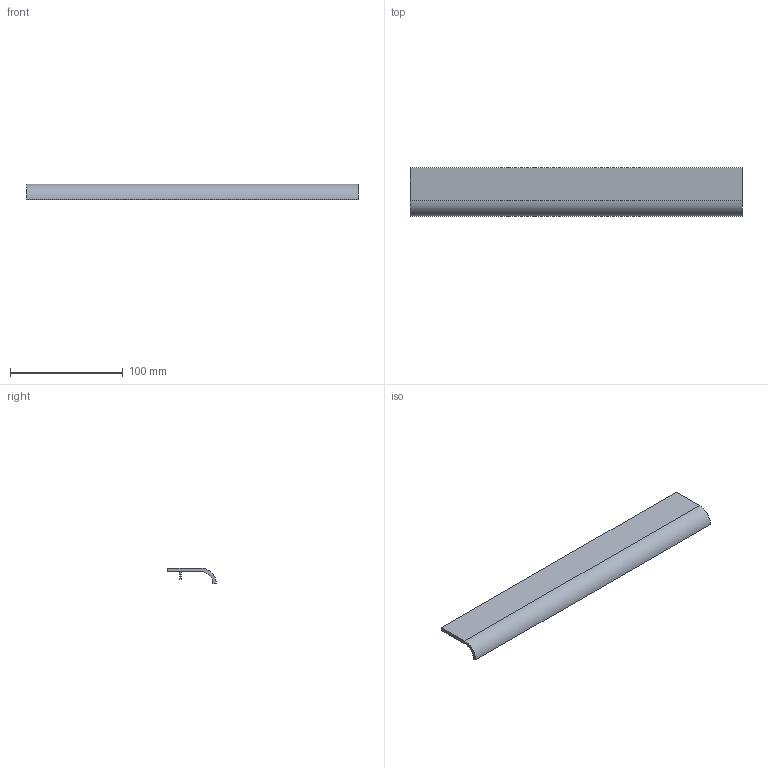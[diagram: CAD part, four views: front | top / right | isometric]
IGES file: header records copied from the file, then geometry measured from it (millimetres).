
Start section: Data from Parasolid IGES Translator 15.0.47, Copyright(c) 2006 Siemens P LM Software. All Rights Reserved.
Global section: file name: 115115.igs; native system:  By UGS Corp.; preprocessor: XPlus GENERIC/IGES 3.0; author: Noname; organization: Noname; date: 20160630.162559; units: millimetre
Bounding box: 294 x 43 x 14 mm (x, y, z)
Surface area: 36508.3 mm2 (no closed solid volume)
Topology: 0 solids, 0 shells, 29 faces, 156 edges, 156 vertices
Faces by surface type: extrusion 27, revolution 2
